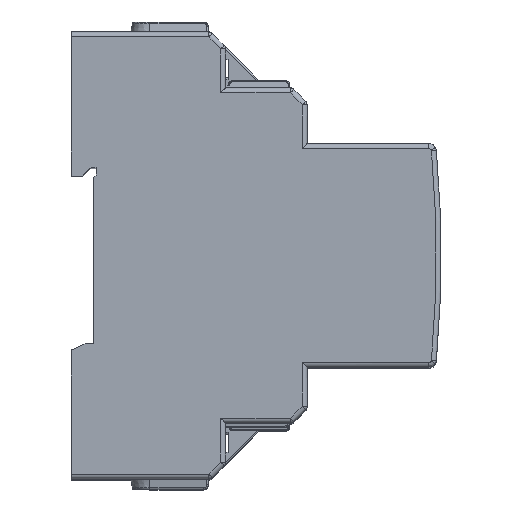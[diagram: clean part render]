
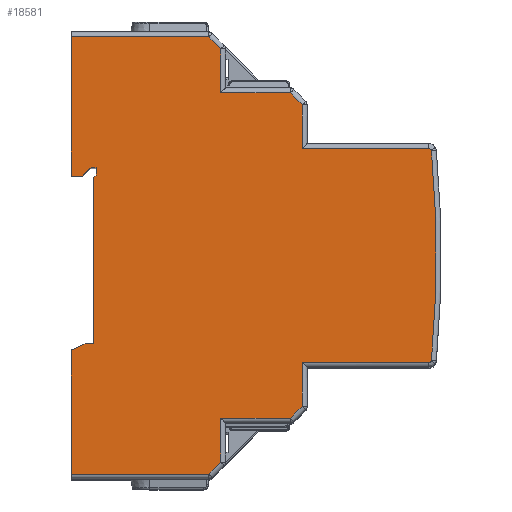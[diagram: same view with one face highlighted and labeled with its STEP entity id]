
A CAD part, top view. The second image highlights one B-rep face of the part: STEP entity #18581.
In plain terms, the highlighted planar face has unit normal (0, 0, 1).
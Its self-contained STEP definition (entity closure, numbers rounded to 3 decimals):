
#180=B_SPLINE_CURVE_WITH_KNOTS($,3,(#32457,#32458,#32459,#32460,#32461,
#32462,#32463,#32464),.UNSPECIFIED.,.F.,.F.,(4,2,2,4),(0.,0.025,
0.038,0.052),.UNSPECIFIED.);
#270=B_SPLINE_CURVE_WITH_KNOTS($,3,(#35162,#35163,#35164,#35165,#35166,
#35167,#35168,#35169),.UNSPECIFIED.,.F.,.F.,(4,2,2,4),(0.,0.014,
0.027,0.052),.UNSPECIFIED.);
#964=PLANE($,#20341);
#2058=FACE_OUTER_BOUND($,#2923,.T.);
#2923=EDGE_LOOP($,(#16815,#16816,#16817,#16818,#16819,#16820,#16821,#16822,
#16823,#16824,#16825,#16826,#16827,#16828,#16829,#16830,#16831,#16832,#16833,
#16834,#16835,#16836,#16837,#16838,#16839,#16840,#16841,#16842,#16843));
#3637=CIRCLE($,#19851,0.5);
#3640=CIRCLE($,#19855,221.5);
#3645=CIRCLE($,#19864,0.5);
#4958=LINE($,#32414,#6637);
#4966=LINE($,#32540,#6645);
#4969=LINE($,#32612,#6648);
#5223=LINE($,#33902,#6902);
#5425=LINE($,#35061,#7104);
#5427=LINE($,#35065,#7106);
#5430=LINE($,#35071,#7109);
#5433=LINE($,#35077,#7112);
#5436=LINE($,#35083,#7115);
#5439=LINE($,#35089,#7118);
#5442=LINE($,#35095,#7121);
#5445=LINE($,#35101,#7124);
#5452=LINE($,#35124,#7131);
#5461=LINE($,#35152,#7140);
#5462=LINE($,#35156,#7141);
#5463=LINE($,#35157,#7142);
#5464=LINE($,#35158,#7143);
#5465=LINE($,#35160,#7144);
#5466=LINE($,#35161,#7145);
#5467=LINE($,#35171,#7146);
#5468=LINE($,#35172,#7147);
#5469=LINE($,#35173,#7148);
#5470=LINE($,#35175,#7149);
#5471=LINE($,#35176,#7150);
#6637=VECTOR($,#23674,25.5);
#6645=VECTOR($,#23710,25.5);
#6648=VECTOR($,#23739,13.986);
#6902=VECTOR($,#24429,8.836);
#7104=VECTOR($,#25067,2.3);
#7106=VECTOR($,#25071,2.404);
#7109=VECTOR($,#25076,1.);
#7112=VECTOR($,#25081,1.5);
#7115=VECTOR($,#25086,0.707);
#7118=VECTOR($,#25091,33.4);
#7121=VECTOR($,#25096,1.5);
#7124=VECTOR($,#25101,3.27);
#7131=VECTOR($,#25126,25.);
#7140=VECTOR($,#25159,3.414);
#7141=VECTOR($,#25164,27.686);
#7142=VECTOR($,#25165,3.414);
#7143=VECTOR($,#25166,8.836);
#7144=VECTOR($,#25167,3.414);
#7145=VECTOR($,#25168,8.836);
#7146=VECTOR($,#25169,8.836);
#7147=VECTOR($,#25170,3.414);
#7148=VECTOR($,#25171,13.986);
#7149=VECTOR($,#25172,27.686);
#7150=VECTOR($,#25173,28.);
#8685=VERTEX_POINT($,#32411);
#8686=VERTEX_POINT($,#32413);
#8687=VERTEX_POINT($,#32456);
#8690=VERTEX_POINT($,#32510);
#8692=VERTEX_POINT($,#32516);
#8700=VERTEX_POINT($,#32537);
#8701=VERTEX_POINT($,#32539);
#8704=VERTEX_POINT($,#32590);
#8707=VERTEX_POINT($,#32598);
#8708=VERTEX_POINT($,#32602);
#8712=VERTEX_POINT($,#32611);
#9095=VERTEX_POINT($,#33885);
#9098=VERTEX_POINT($,#33892);
#9102=VERTEX_POINT($,#33901);
#9374=VERTEX_POINT($,#35058);
#9375=VERTEX_POINT($,#35060);
#9376=VERTEX_POINT($,#35064);
#9378=VERTEX_POINT($,#35070);
#9380=VERTEX_POINT($,#35076);
#9382=VERTEX_POINT($,#35082);
#9384=VERTEX_POINT($,#35088);
#9386=VERTEX_POINT($,#35094);
#9388=VERTEX_POINT($,#35100);
#9395=VERTEX_POINT($,#35122);
#9402=VERTEX_POINT($,#35151);
#9403=VERTEX_POINT($,#35155);
#9404=VERTEX_POINT($,#35159);
#9405=VERTEX_POINT($,#35170);
#9406=VERTEX_POINT($,#35174);
#11465=EDGE_CURVE($,#8686,#8685,#4958,.T.);
#11467=EDGE_CURVE($,#8686,#8687,#180,.T.);
#11472=EDGE_CURVE($,#8687,#8690,#3637,.T.);
#11475=EDGE_CURVE($,#8690,#8692,#3640,.T.);
#11486=EDGE_CURVE($,#8701,#8700,#4966,.T.);
#11491=EDGE_CURVE($,#8692,#8704,#3645,.T.);
#11501=EDGE_CURVE($,#8712,#8708,#4969,.T.);
#11965=EDGE_CURVE($,#9102,#9098,#5223,.T.);
#12365=EDGE_CURVE($,#9375,#9374,#5425,.T.);
#12367=EDGE_CURVE($,#9374,#9376,#5427,.T.);
#12370=EDGE_CURVE($,#9376,#9378,#5430,.T.);
#12373=EDGE_CURVE($,#9378,#9380,#5433,.T.);
#12376=EDGE_CURVE($,#9380,#9382,#5436,.T.);
#12379=EDGE_CURVE($,#9382,#9384,#5439,.T.);
#12382=EDGE_CURVE($,#9384,#9386,#5442,.T.);
#12385=EDGE_CURVE($,#9386,#9388,#5445,.T.);
#12397=EDGE_CURVE($,#9388,#9395,#5452,.T.);
#12411=EDGE_CURVE($,#9098,#9402,#5461,.T.);
#12413=EDGE_CURVE($,#9395,#9403,#5462,.T.);
#12414=EDGE_CURVE($,#9403,#8707,#5463,.T.);
#12415=EDGE_CURVE($,#8707,#8712,#5464,.T.);
#12416=EDGE_CURVE($,#8708,#9404,#5465,.T.);
#12417=EDGE_CURVE($,#9404,#8701,#5466,.T.);
#12418=EDGE_CURVE($,#8704,#8700,#270,.T.);
#12419=EDGE_CURVE($,#8685,#9405,#5467,.T.);
#12420=EDGE_CURVE($,#9405,#9095,#5468,.T.);
#12421=EDGE_CURVE($,#9095,#9102,#5469,.T.);
#12422=EDGE_CURVE($,#9402,#9406,#5470,.T.);
#12423=EDGE_CURVE($,#9406,#9375,#5471,.T.);
#16815=ORIENTED_EDGE($,*,*,#12413,.T.);
#16816=ORIENTED_EDGE($,*,*,#12414,.T.);
#16817=ORIENTED_EDGE($,*,*,#12415,.T.);
#16818=ORIENTED_EDGE($,*,*,#11501,.T.);
#16819=ORIENTED_EDGE($,*,*,#12416,.T.);
#16820=ORIENTED_EDGE($,*,*,#12417,.T.);
#16821=ORIENTED_EDGE($,*,*,#11486,.T.);
#16822=ORIENTED_EDGE($,*,*,#12418,.F.);
#16823=ORIENTED_EDGE($,*,*,#11491,.F.);
#16824=ORIENTED_EDGE($,*,*,#11475,.F.);
#16825=ORIENTED_EDGE($,*,*,#11472,.F.);
#16826=ORIENTED_EDGE($,*,*,#11467,.F.);
#16827=ORIENTED_EDGE($,*,*,#11465,.T.);
#16828=ORIENTED_EDGE($,*,*,#12419,.T.);
#16829=ORIENTED_EDGE($,*,*,#12420,.T.);
#16830=ORIENTED_EDGE($,*,*,#12421,.T.);
#16831=ORIENTED_EDGE($,*,*,#11965,.T.);
#16832=ORIENTED_EDGE($,*,*,#12411,.T.);
#16833=ORIENTED_EDGE($,*,*,#12422,.T.);
#16834=ORIENTED_EDGE($,*,*,#12423,.T.);
#16835=ORIENTED_EDGE($,*,*,#12365,.T.);
#16836=ORIENTED_EDGE($,*,*,#12367,.T.);
#16837=ORIENTED_EDGE($,*,*,#12370,.T.);
#16838=ORIENTED_EDGE($,*,*,#12373,.T.);
#16839=ORIENTED_EDGE($,*,*,#12376,.T.);
#16840=ORIENTED_EDGE($,*,*,#12379,.T.);
#16841=ORIENTED_EDGE($,*,*,#12382,.T.);
#16842=ORIENTED_EDGE($,*,*,#12385,.T.);
#16843=ORIENTED_EDGE($,*,*,#12397,.T.);
#18581=ADVANCED_FACE($,(#2058),#964,.F.);
#19851=AXIS2_PLACEMENT_3D($,#32511,#23680,#23681);
#19855=AXIS2_PLACEMENT_3D($,#32517,#23688,#23689);
#19864=AXIS2_PLACEMENT_3D($,#32591,#23714,#23715);
#20341=AXIS2_PLACEMENT_3D($,#35154,#25162,#25163);
#23674=DIRECTION($,(-1.,0.,0.));
#23680=DIRECTION('center_axis',(0.,0.,-1.));
#23681=DIRECTION('ref_axis',(0.953,0.304,0.));
#23688=DIRECTION('center_axis',(0.,0.,-1.));
#23689=DIRECTION('ref_axis',(1.,0.,0.));
#23710=DIRECTION($,(1.,0.,0.));
#23714=DIRECTION('center_axis',(0.,0.,-1.));
#23715=DIRECTION('ref_axis',(0.953,-0.304,0.));
#23739=DIRECTION($,(1.,0.,0.));
#24429=DIRECTION($,(0.,1.,0.));
#25067=DIRECTION($,(1.,0.,0.));
#25071=DIRECTION($,(0.707,0.707,0.));
#25076=DIRECTION($,(1.,0.,0.));
#25081=DIRECTION($,(0.,-1.,0.));
#25086=DIRECTION($,(-0.707,-0.707,0.));
#25091=DIRECTION($,(0.,-1.,0.));
#25096=DIRECTION($,(-1.,0.,0.));
#25101=DIRECTION($,(-0.918,-0.398,0.));
#25126=DIRECTION($,(0.,-1.,0.));
#25159=DIRECTION($,(-0.707,0.707,0.));
#25162=DIRECTION('center_axis',(0.,0.,-1.));
#25163=DIRECTION('ref_axis',(-1.,0.,0.));
#25164=DIRECTION($,(1.,0.,0.));
#25165=DIRECTION($,(0.707,0.707,0.));
#25166=DIRECTION($,(0.,1.,0.));
#25167=DIRECTION($,(0.707,0.707,0.));
#25168=DIRECTION($,(0.,1.,0.));
#25169=DIRECTION($,(0.,1.,0.));
#25170=DIRECTION($,(-0.707,0.707,0.));
#25171=DIRECTION($,(-1.,0.,0.));
#25172=DIRECTION($,(-1.,0.,0.));
#25173=DIRECTION($,(0.,-1.,0.));
#32411=CARTESIAN_POINT('',(46.5,21.5,53.75));
#32413=CARTESIAN_POINT('',(72.,21.5,53.75));
#32414=CARTESIAN_POINT($,(31.1,21.5,53.75));
#32456=CARTESIAN_POINT('',(72.433,21.25,53.75));
#32457=CARTESIAN_POINT('Ctrl Pts',(72.,21.5,53.75));
#32458=CARTESIAN_POINT('Ctrl Pts',(72.084,21.5,53.75));
#32459=CARTESIAN_POINT('Ctrl Pts',(72.169,21.478,53.75));
#32460=CARTESIAN_POINT('Ctrl Pts',(72.282,21.415,53.75));
#32461=CARTESIAN_POINT('Ctrl Pts',(72.317,21.389,53.75));
#32462=CARTESIAN_POINT('Ctrl Pts',(72.382,21.326,53.75));
#32463=CARTESIAN_POINT('Ctrl Pts',(72.41,21.289,53.75));
#32464=CARTESIAN_POINT('Ctrl Pts',(72.433,21.25,53.75));
#32510=CARTESIAN_POINT('',(72.498,21.048,53.75));
#32511=CARTESIAN_POINT('Origin',(72.,21.,53.75));
#32516=CARTESIAN_POINT('',(72.498,-21.048,53.75));
#32517=CARTESIAN_POINT('Origin',(-148.,0.,53.75));
#32537=CARTESIAN_POINT('',(72.,-21.5,53.75));
#32539=CARTESIAN_POINT('',(46.5,-21.5,53.75));
#32540=CARTESIAN_POINT($,(31.1,-21.5,53.75));
#32590=CARTESIAN_POINT('',(72.433,-21.25,53.75));
#32591=CARTESIAN_POINT('Origin',(72.,-21.,53.75));
#32598=CARTESIAN_POINT('',(30.1,-41.586,53.75));
#32602=CARTESIAN_POINT('',(44.086,-32.75,53.75));
#32611=CARTESIAN_POINT('',(30.1,-32.75,53.75));
#32612=CARTESIAN_POINT($,(31.1,-32.75,53.75));
#33885=CARTESIAN_POINT('',(44.086,32.75,53.75));
#33892=CARTESIAN_POINT('',(30.1,41.586,53.75));
#33901=CARTESIAN_POINT('',(30.1,32.75,53.75));
#33902=CARTESIAN_POINT($,(30.1,45.,53.75));
#35058=CARTESIAN_POINT('',(2.3,16.,53.75));
#35060=CARTESIAN_POINT('',(0.,16.,53.75));
#35061=CARTESIAN_POINT($,(3.,16.,53.75));
#35064=CARTESIAN_POINT('',(4.,17.7,53.75));
#35065=CARTESIAN_POINT($,(-0.775,12.925,53.75));
#35070=CARTESIAN_POINT('',(5.,17.7,53.75));
#35071=CARTESIAN_POINT($,(5.,17.7,53.75));
#35076=CARTESIAN_POINT('',(5.,16.2,53.75));
#35077=CARTESIAN_POINT($,(5.,8.85,53.75));
#35082=CARTESIAN_POINT('',(4.5,15.7,53.75));
#35083=CARTESIAN_POINT($,(1.2,12.4,53.75));
#35088=CARTESIAN_POINT('',(4.5,-17.7,53.75));
#35089=CARTESIAN_POINT($,(4.5,7.85,53.75));
#35094=CARTESIAN_POINT('',(3.,-17.7,53.75));
#35095=CARTESIAN_POINT($,(5.25,-17.7,53.75));
#35100=CARTESIAN_POINT('',(0.,-19.,53.75));
#35101=CARTESIAN_POINT($,(7.492,-15.754,53.75));
#35122=CARTESIAN_POINT('',(0.,-44.,53.75));
#35124=CARTESIAN_POINT($,(0.,-45.,53.75));
#35151=CARTESIAN_POINT('',(27.686,44.,53.75));
#35152=CARTESIAN_POINT($,(27.393,44.293,53.75));
#35154=CARTESIAN_POINT('Origin',(31.1,45.,53.75));
#35155=CARTESIAN_POINT('',(27.686,-44.,53.75));
#35156=CARTESIAN_POINT($,(31.1,-44.,53.75));
#35157=CARTESIAN_POINT($,(30.393,-41.293,53.75));
#35158=CARTESIAN_POINT($,(30.1,45.,53.75));
#35159=CARTESIAN_POINT('',(46.5,-30.336,53.75));
#35160=CARTESIAN_POINT($,(46.793,-30.043,53.75));
#35161=CARTESIAN_POINT($,(46.5,45.,53.75));
#35162=CARTESIAN_POINT('Ctrl Pts',(72.433,-21.25,53.75));
#35163=CARTESIAN_POINT('Ctrl Pts',(72.41,-21.289,53.75));
#35164=CARTESIAN_POINT('Ctrl Pts',(72.382,-21.326,53.75));
#35165=CARTESIAN_POINT('Ctrl Pts',(72.317,-21.389,53.75));
#35166=CARTESIAN_POINT('Ctrl Pts',(72.282,-21.415,53.75));
#35167=CARTESIAN_POINT('Ctrl Pts',(72.169,-21.478,53.75));
#35168=CARTESIAN_POINT('Ctrl Pts',(72.084,-21.5,53.75));
#35169=CARTESIAN_POINT('Ctrl Pts',(72.,-21.5,53.75));
#35170=CARTESIAN_POINT('',(46.5,30.336,53.75));
#35171=CARTESIAN_POINT($,(46.5,45.,53.75));
#35172=CARTESIAN_POINT($,(43.793,33.043,53.75));
#35173=CARTESIAN_POINT($,(31.1,32.75,53.75));
#35174=CARTESIAN_POINT('',(0.,44.,53.75));
#35175=CARTESIAN_POINT($,(31.1,44.,53.75));
#35176=CARTESIAN_POINT($,(0.,-45.,53.75));
